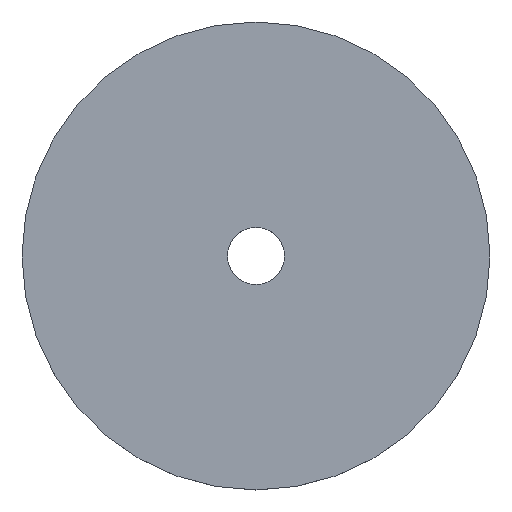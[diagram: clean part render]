
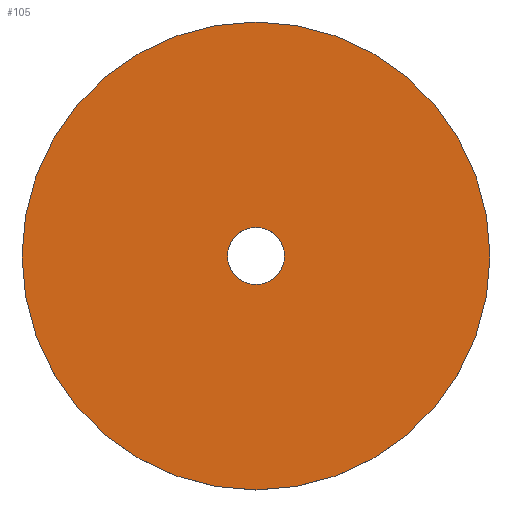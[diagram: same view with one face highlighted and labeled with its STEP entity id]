
A CAD part, top view. The second image highlights one B-rep face of the part: STEP entity #105.
In plain terms, the highlighted planar face has unit normal (0, 0, 1).
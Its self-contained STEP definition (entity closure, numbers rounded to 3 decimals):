
#21 = EDGE_CURVE('',#22,#22,#24,.T.);
#22 = VERTEX_POINT('',#23);
#23 = CARTESIAN_POINT('',(8.2,0.,8.8));
#24 = SURFACE_CURVE('',#25,(#30,#42),.PCURVE_S1.);
#25 = CIRCLE('',#26,8.2);
#26 = AXIS2_PLACEMENT_3D('',#27,#28,#29);
#27 = CARTESIAN_POINT('',(0.,0.,8.8));
#28 = DIRECTION('',(0.,0.,1.));
#29 = DIRECTION('',(1.,0.,-0.));
#30 = PCURVE('',#31,#36);
#31 = CYLINDRICAL_SURFACE('',#32,8.2);
#32 = AXIS2_PLACEMENT_3D('',#33,#34,#35);
#33 = CARTESIAN_POINT('',(0.,0.,8.));
#34 = DIRECTION('',(0.,0.,1.));
#35 = DIRECTION('',(1.,0.,-0.));
#36 = DEFINITIONAL_REPRESENTATION('',(#37),#41);
#37 = LINE('',#38,#39);
#38 = CARTESIAN_POINT('',(0.,0.8));
#39 = VECTOR('',#40,1.);
#40 = DIRECTION('',(1.,0.));
#41 = ( GEOMETRIC_REPRESENTATION_CONTEXT(2) 
PARAMETRIC_REPRESENTATION_CONTEXT() REPRESENTATION_CONTEXT('2D SPACE',''
  ) );
#42 = PCURVE('',#43,#48);
#43 = PLANE('',#44);
#44 = AXIS2_PLACEMENT_3D('',#45,#46,#47);
#45 = CARTESIAN_POINT('',(0.,0.,8.8));
#46 = DIRECTION('',(0.,0.,1.));
#47 = DIRECTION('',(1.,0.,-0.));
#48 = DEFINITIONAL_REPRESENTATION('',(#49),#53);
#49 = CIRCLE('',#50,8.2);
#50 = AXIS2_PLACEMENT_2D('',#51,#52);
#51 = CARTESIAN_POINT('',(0.,0.));
#52 = DIRECTION('',(1.,0.));
#53 = ( GEOMETRIC_REPRESENTATION_CONTEXT(2) 
PARAMETRIC_REPRESENTATION_CONTEXT() REPRESENTATION_CONTEXT('2D SPACE',''
  ) );
#105 = ADVANCED_FACE('',(#106,#109),#43,.T.);
#106 = FACE_BOUND('',#107,.T.);
#107 = EDGE_LOOP('',(#108));
#108 = ORIENTED_EDGE('',*,*,#21,.T.);
#109 = FACE_BOUND('',#110,.T.);
#110 = EDGE_LOOP('',(#111));
#111 = ORIENTED_EDGE('',*,*,#112,.F.);
#112 = EDGE_CURVE('',#113,#113,#115,.T.);
#113 = VERTEX_POINT('',#114);
#114 = CARTESIAN_POINT('',(1.,0.,8.8));
#115 = SURFACE_CURVE('',#116,(#121,#128),.PCURVE_S1.);
#116 = CIRCLE('',#117,1.);
#117 = AXIS2_PLACEMENT_3D('',#118,#119,#120);
#118 = CARTESIAN_POINT('',(0.,0.,8.8));
#119 = DIRECTION('',(0.,0.,1.));
#120 = DIRECTION('',(1.,0.,-0.));
#121 = PCURVE('',#43,#122);
#122 = DEFINITIONAL_REPRESENTATION('',(#123),#127);
#123 = CIRCLE('',#124,1.);
#124 = AXIS2_PLACEMENT_2D('',#125,#126);
#125 = CARTESIAN_POINT('',(0.,0.));
#126 = DIRECTION('',(1.,0.));
#127 = ( GEOMETRIC_REPRESENTATION_CONTEXT(2) 
PARAMETRIC_REPRESENTATION_CONTEXT() REPRESENTATION_CONTEXT('2D SPACE',''
  ) );
#128 = PCURVE('',#129,#134);
#129 = CYLINDRICAL_SURFACE('',#130,1.);
#130 = AXIS2_PLACEMENT_3D('',#131,#132,#133);
#131 = CARTESIAN_POINT('',(0.,0.,7.99));
#132 = DIRECTION('',(0.,0.,1.));
#133 = DIRECTION('',(1.,0.,-0.));
#134 = DEFINITIONAL_REPRESENTATION('',(#135),#139);
#135 = LINE('',#136,#137);
#136 = CARTESIAN_POINT('',(0.,0.81));
#137 = VECTOR('',#138,1.);
#138 = DIRECTION('',(1.,0.));
#139 = ( GEOMETRIC_REPRESENTATION_CONTEXT(2) 
PARAMETRIC_REPRESENTATION_CONTEXT() REPRESENTATION_CONTEXT('2D SPACE',''
  ) );
